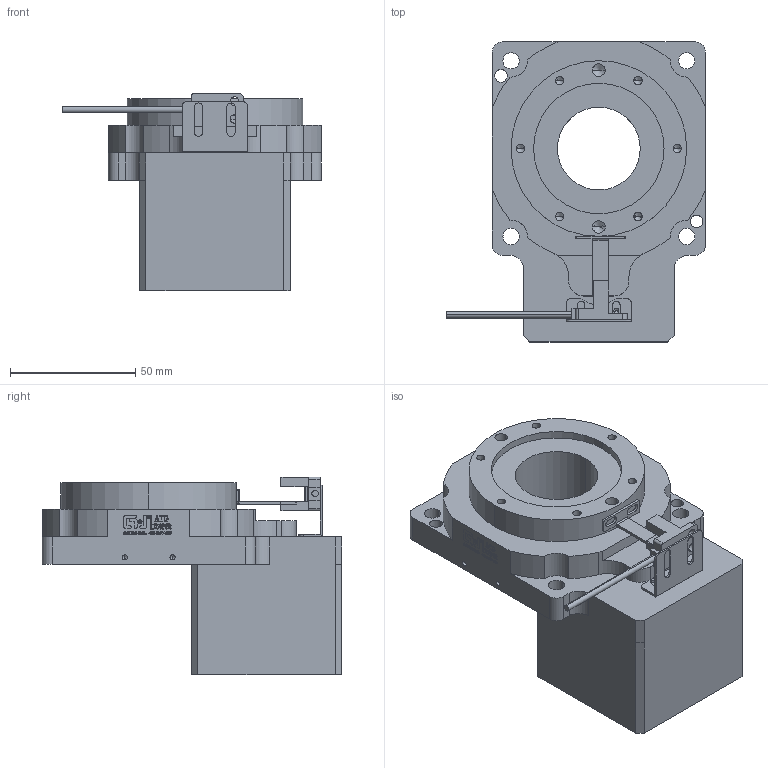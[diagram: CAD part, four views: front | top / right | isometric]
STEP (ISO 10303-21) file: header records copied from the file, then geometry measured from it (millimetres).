
FILE_DESCRIPTION (( 'STEP AP214' ), '1' );
FILE_NAME ('GT85-C-5-14-50-70-M4-2.STEP', '2024-07-02T00:39:37', ( '' ), ( '' ), 'SwSTEP 2.0', 'SolidWorks 2021', '' );
FILE_SCHEMA (( 'AUTOMOTIVE_DESIGN' ));
Length unit declared in the file: millimetre
Products named in the file (1): GT85-C-5-14-50-70-M4-2
Bounding box: 103.22 x 119.5 x 78.74 mm (x, y, z)
Volume: 319371 mm3; surface area: 49512.4 mm2
Topology: 4 solids, 6 shells, 1136 faces, 3104 edges, 2036 vertices
Faces by surface type: plane 642, bspline 306, cylinder 148, cone 40
Entity records: 61885 total; most frequent: CARTESIAN_POINT 22529, ORIENTED_EDGE 6128, DIRECTION 4410, EDGE_CURVE 3064, LINE 2152, VECTOR 2152, VERTEX_POINT 2036, EDGE_LOOP 1262
